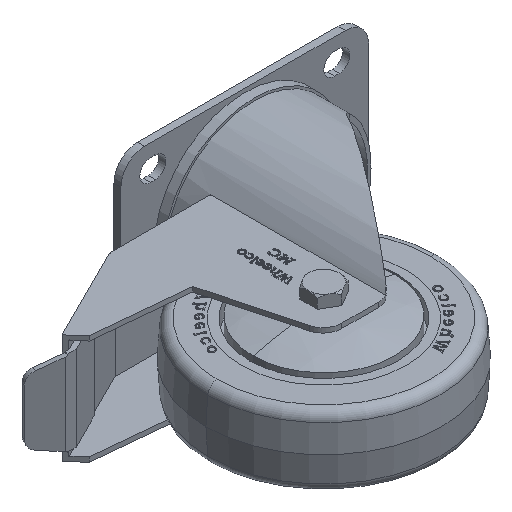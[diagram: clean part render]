
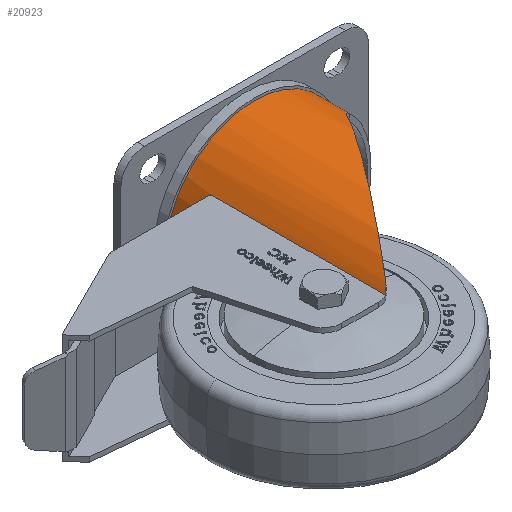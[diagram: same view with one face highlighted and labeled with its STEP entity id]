
A CAD part, isometric view. The second image highlights one B-rep face of the part: STEP entity #20923.
In plain terms, the highlighted cylindrical face has radius 37.5 mm (diameter 75 mm), a partial arc.
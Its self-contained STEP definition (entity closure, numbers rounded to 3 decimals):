
#752 =( BOUNDED_CURVE ( )  B_SPLINE_CURVE ( 3, ( #19159, #45268, #8895, #8422 ),
 .UNSPECIFIED., .F., .F. ) 
 B_SPLINE_CURVE_WITH_KNOTS ( ( 4, 4 ),
 ( 3.142, 3.975 ),
 .UNSPECIFIED. ) 
 CURVE ( )  GEOMETRIC_REPRESENTATION_ITEM ( )  RATIONAL_B_SPLINE_CURVE ( ( 1., 0.943, 0.943, 1. ) ) 
 REPRESENTATION_ITEM ( '' )  );
#1910 = CARTESIAN_POINT ( 'NONE',  ( 23.25, 1.087, 29.423 ) ) ;
#2566 = CARTESIAN_POINT ( 'NONE',  ( 31.179, 67.756, -20.836 ) ) ;
#3263 = CARTESIAN_POINT ( 'NONE',  ( 0., 86., -37.5 ) ) ;
#4187 = EDGE_CURVE ( 'NONE', #47018, #14978, #12906, .T. ) ;
#5310 = CARTESIAN_POINT ( 'NONE',  ( 24.272, 1.621, 28.592 ) ) ;
#6060 = CARTESIAN_POINT ( 'NONE',  ( 27.771, 70.72, -25.2 ) ) ;
#6861 = DIRECTION ( 'NONE',  ( 0., 0., -1. ) ) ;
#7239 = B_SPLINE_CURVE_WITH_KNOTS ( 'NONE', 3,
 ( #1910, #31619, #5310, #16491, #9188, #31380, #39422, #46276 ),
 .UNSPECIFIED., .F., .F.,
 ( 4, 2, 2, 4 ),
 ( 0., 0.002, 0.003, 0.004 ),
 .UNSPECIFIED. ) ;
#8288 = DIRECTION ( 'NONE',  ( 0., -1., 0. ) ) ;
#8422 = CARTESIAN_POINT ( 'NONE',  ( 27.771, 70.72, -25.2 ) ) ;
#8895 = CARTESIAN_POINT ( 'NONE',  ( 20.555, 72.84, -33.151 ) ) ;
#9188 = CARTESIAN_POINT ( 'NONE',  ( 25.184, 2.342, 27.787 ) ) ;
#9744 = EDGE_CURVE ( 'NONE', #18452, #14978, #752, .T. ) ;
#10044 = VERTEX_POINT ( 'NONE', #15886 ) ;
#10463 = ORIENTED_EDGE ( 'NONE', *, *, #9744, .F. ) ;
#10981 = CARTESIAN_POINT ( 'NONE',  ( 39.691, 20.993, 13.851 ) ) ;
#12036 = VERTEX_POINT ( 'NONE', #33219 ) ;
#12110 = CARTESIAN_POINT ( 'NONE',  ( 29.11, 70.139, -23.645 ) ) ;
#12906 = B_SPLINE_CURVE_WITH_KNOTS ( 'NONE', 3,
 ( #27245, #34806, #23823, #15280, #45307, #16248, #12110, #45071, #41886, #38699 ),
 .UNSPECIFIED., .F., .F.,
 ( 4, 2, 2, 2, 4 ),
 ( 0., 0.002, 0.003, 0.005, 0.006 ),
 .UNSPECIFIED. ) ;
#14140 = ORIENTED_EDGE ( 'NONE', *, *, #42710, .T. ) ;
#14853 = DIRECTION ( 'NONE',  ( 0., 1., 0. ) ) ;
#14978 = VERTEX_POINT ( 'NONE', #6060 ) ;
#15280 = CARTESIAN_POINT ( 'NONE',  ( 30.267, 69.157, -22.143 ) ) ;
#15886 = CARTESIAN_POINT ( 'NONE',  ( 0., 75., 37.5 ) ) ;
#16248 = CARTESIAN_POINT ( 'NONE',  ( 29.417, 69.933, -23.262 ) ) ;
#16491 = CARTESIAN_POINT ( 'NONE',  ( 24.963, 2.15, 27.986 ) ) ;
#17639 = CIRCLE ( 'NONE', #44921, 37.5 ) ;
#17663 = LINE ( 'NONE', #40356, #19226 ) ;
#17809 = CARTESIAN_POINT ( 'NONE',  ( 0., 86., 0. ) ) ;
#18211 = EDGE_CURVE ( 'NONE', #12036, #47673, #27537, .T. ) ;
#18452 = VERTEX_POINT ( 'NONE', #37736 ) ;
#19159 = CARTESIAN_POINT ( 'NONE',  ( 0., 74., -37.5 ) ) ;
#19226 = VECTOR ( 'NONE', #30507, 1000. ) ;
#19512 = FACE_OUTER_BOUND ( 'NONE', #43105, .T. ) ;
#20923 = ADVANCED_FACE ( 'NONE', ( #19512 ), #24132, .T. ) ;
#21567 = EDGE_CURVE ( 'NONE', #47673, #10044, #17639, .T. ) ;
#22244 = ORIENTED_EDGE ( 'NONE', *, *, #47477, .T. ) ;
#22633 = VERTEX_POINT ( 'NONE', #31701 ) ;
#23823 = CARTESIAN_POINT ( 'NONE',  ( 30.758, 68.516, -21.457 ) ) ;
#24132 = CYLINDRICAL_SURFACE ( 'NONE', #44052, 37.5 ) ;
#24877 = CARTESIAN_POINT ( 'NONE',  ( 23.25, 75., 29.423 ) ) ;
#25648 = DIRECTION ( 'NONE',  ( 0., -1., 0. ) ) ;
#26269 = ORIENTED_EDGE ( 'NONE', *, *, #32428, .F. ) ;
#27245 = CARTESIAN_POINT ( 'NONE',  ( 31.179, 67.756, -20.836 ) ) ;
#27519 = VECTOR ( 'NONE', #43676, 1000. ) ;
#27537 = LINE ( 'NONE', #38516, #40944 ) ;
#27625 = ORIENTED_EDGE ( 'NONE', *, *, #18211, .F. ) ;
#28062 = CARTESIAN_POINT ( 'NONE',  ( 0., 86., -37.5 ) ) ;
#29750 = DIRECTION ( 'NONE',  ( 0., 0., 1. ) ) ;
#29756 = CARTESIAN_POINT ( 'NONE',  ( 31.179, 67.756, -20.836 ) ) ;
#30107 = ORIENTED_EDGE ( 'NONE', *, *, #41034, .F. ) ;
#30507 = DIRECTION ( 'NONE',  ( 0., -1., 0. ) ) ;
#30725 = DIRECTION ( 'NONE',  ( 0., 0., -1. ) ) ;
#31273 = AXIS2_PLACEMENT_3D ( 'NONE', #17809, #14853, #29750 ) ;
#31380 = CARTESIAN_POINT ( 'NONE',  ( 25.608, 2.761, 27.396 ) ) ;
#31428 = DIRECTION ( 'NONE',  ( 0., 1., 0. ) ) ;
#31619 = CARTESIAN_POINT ( 'NONE',  ( 23.777, 1.33, 29.006 ) ) ;
#31701 = CARTESIAN_POINT ( 'NONE',  ( 0., 86., 37.5 ) ) ;
#31722 = LINE ( 'NONE', #28062, #27519 ) ;
#32426 = ORIENTED_EDGE ( 'NONE', *, *, #4187, .T. ) ;
#32428 = EDGE_CURVE ( 'NONE', #22633, #40671, #38282, .T. ) ;
#33219 = CARTESIAN_POINT ( 'NONE',  ( 23.25, 1.087, 29.423 ) ) ;
#33589 = CARTESIAN_POINT ( 'NONE',  ( 25.999, 3.234, 27.024 ) ) ;
#34633 = CARTESIAN_POINT ( 'NONE',  ( 0., 86., 0. ) ) ;
#34722 = ORIENTED_EDGE ( 'NONE', *, *, #21567, .F. ) ;
#34806 = CARTESIAN_POINT ( 'NONE',  ( 30.98, 68.158, -21.134 ) ) ;
#35035 =( BOUNDED_CURVE ( )  B_SPLINE_CURVE ( 3, ( #29756, #44645, #10981, #47825 ),
 .UNSPECIFIED., .F., .T. ) 
 B_SPLINE_CURVE_WITH_KNOTS ( ( 4, 4 ),
 ( 4.123, 5.517 ),
 .UNSPECIFIED. ) 
 CURVE ( )  GEOMETRIC_REPRESENTATION_ITEM ( )  RATIONAL_B_SPLINE_CURVE ( ( 1., 0.845, 0.845, 1. ) ) 
 REPRESENTATION_ITEM ( '' )  );
#35306 = VERTEX_POINT ( 'NONE', #33589 ) ;
#36287 = EDGE_CURVE ( 'NONE', #40671, #18452, #31722, .T. ) ;
#37736 = CARTESIAN_POINT ( 'NONE',  ( 0., 74., -37.5 ) ) ;
#38282 = CIRCLE ( 'NONE', #31273, 37.5 ) ;
#38516 = CARTESIAN_POINT ( 'NONE',  ( 23.25, 86., 29.423 ) ) ;
#38699 = CARTESIAN_POINT ( 'NONE',  ( 27.771, 70.72, -25.2 ) ) ;
#39422 = CARTESIAN_POINT ( 'NONE',  ( 25.811, 2.989, 27.205 ) ) ;
#40356 = CARTESIAN_POINT ( 'NONE',  ( 0., 86., 37.5 ) ) ;
#40671 = VERTEX_POINT ( 'NONE', #3263 ) ;
#40944 = VECTOR ( 'NONE', #31428, 1000. ) ;
#41034 = EDGE_CURVE ( 'NONE', #47018, #35306, #35035, .T. ) ;
#41886 = CARTESIAN_POINT ( 'NONE',  ( 28.125, 70.616, -24.81 ) ) ;
#42710 = EDGE_CURVE ( 'NONE', #12036, #35306, #7239, .T. ) ;
#43105 = EDGE_LOOP ( 'NONE', ( #26269, #22244, #34722, #27625, #14140, #30107, #32426, #10463, #46298 ) ) ;
#43676 = DIRECTION ( 'NONE',  ( 0., -1., 0. ) ) ;
#43699 = CARTESIAN_POINT ( 'NONE',  ( 0., 75., 0. ) ) ;
#44052 = AXIS2_PLACEMENT_3D ( 'NONE', #34633, #8288, #30725 ) ;
#44645 = CARTESIAN_POINT ( 'NONE',  ( 41.736, 46.459, -5.038 ) ) ;
#44921 = AXIS2_PLACEMENT_3D ( 'NONE', #43699, #25648, #6861 ) ;
#45071 = CARTESIAN_POINT ( 'NONE',  ( 28.465, 70.48, -24.419 ) ) ;
#45268 = CARTESIAN_POINT ( 'NONE',  ( 10.738, 74., -37.5 ) ) ;
#45307 = CARTESIAN_POINT ( 'NONE',  ( 29.998, 69.441, -22.508 ) ) ;
#46276 = CARTESIAN_POINT ( 'NONE',  ( 25.999, 3.234, 27.024 ) ) ;
#46298 = ORIENTED_EDGE ( 'NONE', *, *, #36287, .F. ) ;
#47018 = VERTEX_POINT ( 'NONE', #2566 ) ;
#47477 = EDGE_CURVE ( 'NONE', #22633, #10044, #17663, .T. ) ;
#47673 = VERTEX_POINT ( 'NONE', #24877 ) ;
#47825 = CARTESIAN_POINT ( 'NONE',  ( 25.999, 3.234, 27.024 ) ) ;
